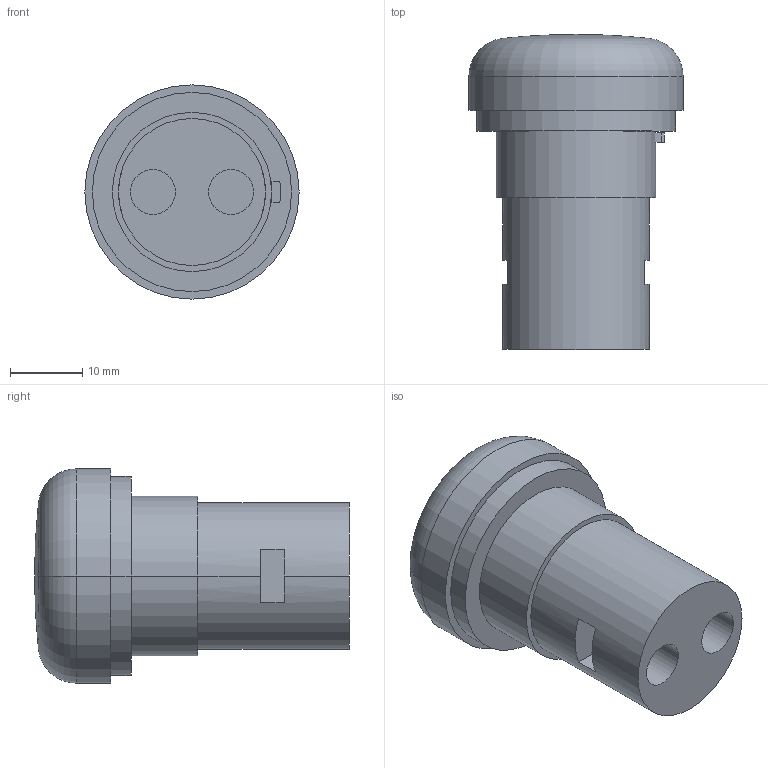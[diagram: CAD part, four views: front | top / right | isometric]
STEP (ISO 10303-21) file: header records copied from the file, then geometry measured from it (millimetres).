
FILE_DESCRIPTION (( 'STEP AP203' ), '1' );
FILE_NAME ('ZF_STEP_E6_xISxBxxVxx.STEP', '2015-07-14T09:47:53', ( 'utente' ), ( 'Microsoft' ), 'SwSTEP 2.0', 'SolidWorks 2014', '' );
FILE_SCHEMA (( 'CONFIG_CONTROL_DESIGN' ));
Length unit declared in the file: millimetre
Products named in the file (1): ZF_STEP_E6_xISxBxxVxx
Bounding box: 29.6 x 43.5 x 29.6 mm (x, y, z)
Volume: 17495.6 mm3; surface area: 4864.3 mm2
Topology: 1 solids, 1 shells, 37 faces, 93 edges, 61 vertices
Faces by surface type: plane 19, cylinder 14, torus 2, sphere 2
Entity records: 1214 total; most frequent: DIRECTION 215, CARTESIAN_POINT 192, ORIENTED_EDGE 186, EDGE_CURVE 93, AXIS2_PLACEMENT_3D 84, VERTEX_POINT 61, LINE 47, VECTOR 47
